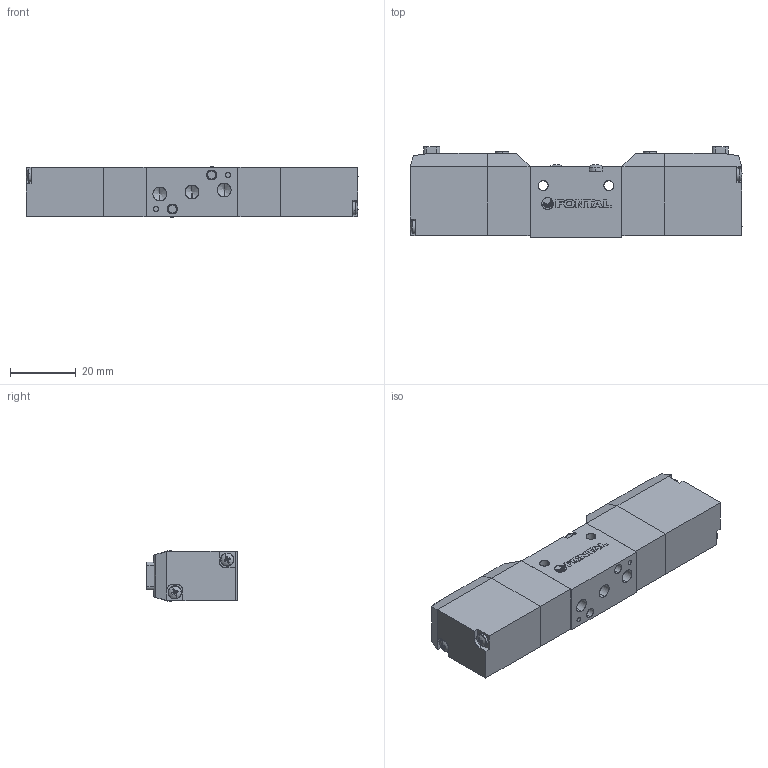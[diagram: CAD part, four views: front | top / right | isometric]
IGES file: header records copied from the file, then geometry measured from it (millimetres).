
Start section: SolidWorks IGES file using analytic representation for surfaces
Global section: file name: D:\Custom\3D繪製\PC\RC5\RCD245#-M5-#-L-#.IGS,1; native system: 5HSolidWorks 2014; preprocessor: SolidWorks 2014; author: Chieh_Lu; date: 150809.173228; units: millimetre
Bounding box: 101.14 x 27.5 x 15.4 mm (x, y, z)
Surface area: 14496 mm2 (no closed solid volume)
Topology: 0 solids, 0 shells, 514 faces, 4744 edges, 4722 vertices
Faces by surface type: bspline 317, revolution 197
